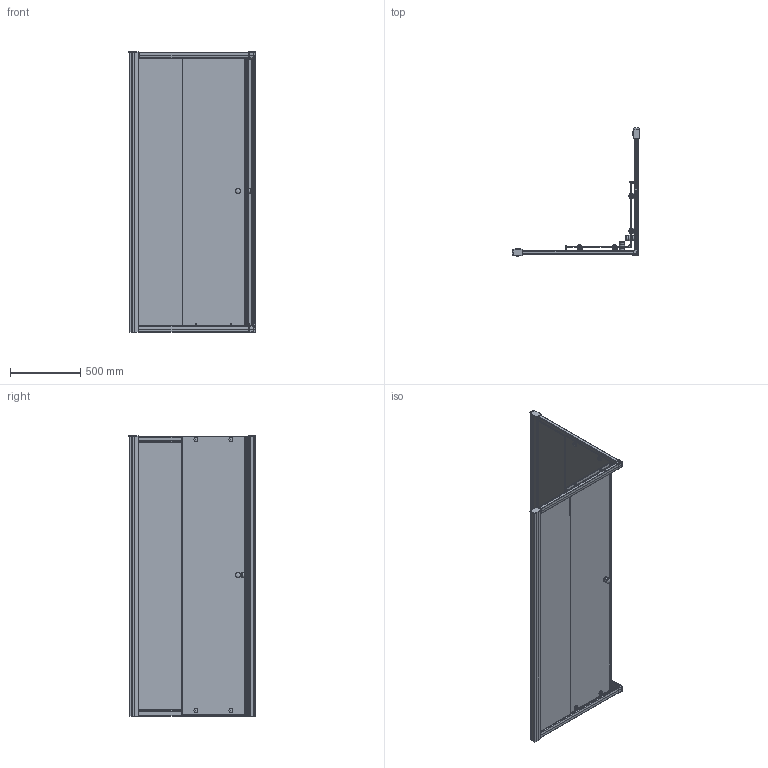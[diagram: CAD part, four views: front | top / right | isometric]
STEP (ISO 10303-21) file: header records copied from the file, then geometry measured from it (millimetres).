
FILE_DESCRIPTION(/* description */ (''),/* implementation_level */ '2;1');
FILE_NAME(/* name */ 'E:\Работа\Сергей\Душевые кабинки\! Работа\STP для дизайнеров\GUWER GK-664S\GUWER GK-664S (3D).stp',/* time_stamp */ '2017-07-27T20:01:02+03:00',/* author */ ('PC'),/* organization */ (''),/* preprocessor_version */ 'ST-DEVELOPER v15.2',/* originating_system */ 'Autodesk Inventor 2014',/* authorisation */ '');
FILE_SCHEMA (('AUTOMOTIVE_DESIGN { 1 0 10303 214 3 1 1 }'));
Products named in the file (1): GUWER GK-664S (3D)
Bounding box: 912.98 x 912.98 x 2002 mm (x, y, z)
Volume: 33230907.3 mm3; surface area: 8155267.7 mm2
Topology: 7 solids, 15 shells, 2175 faces, 5619 edges, 3504 vertices
Faces by surface type: plane 1016, cylinder 608, bspline 329, torus 144, sphere 48, cone 30
Full cylindrical faces by diameter (mm): 6 x12, 7 x4, 8 x4, 10.2 x8, 11 x16, 19 x8, 20.4 x4, 22.6 x4, 24.2 x32, 28.7 x8, 38 x8
Entity records: 76905 total; most frequent: CARTESIAN_POINT 23540, ORIENTED_EDGE 10850, DIRECTION 10187, EDGE_CURVE 5416, AXIS2_PLACEMENT_3D 3545, VERTEX_POINT 3456, LINE 3097, VECTOR 3097
